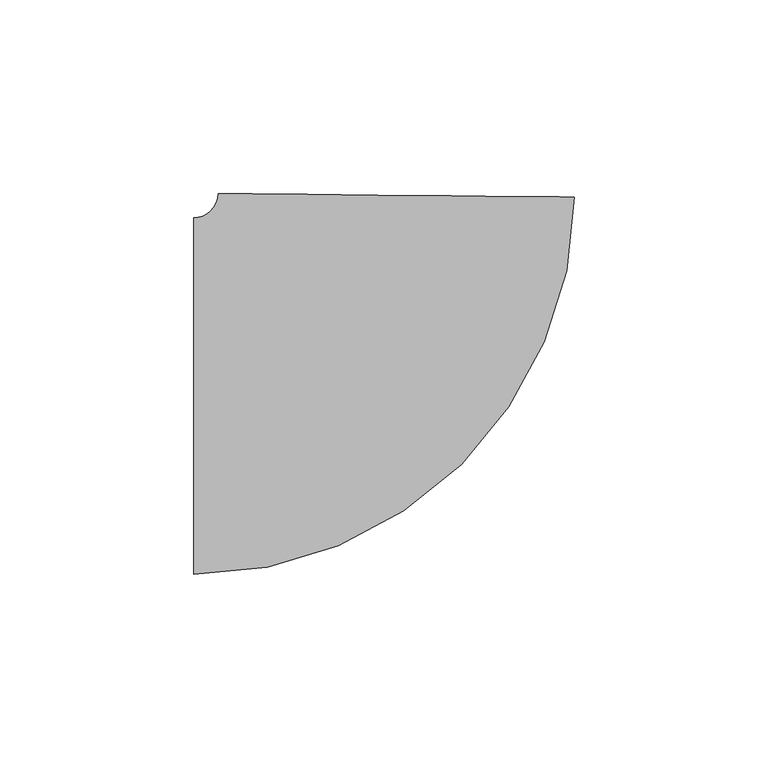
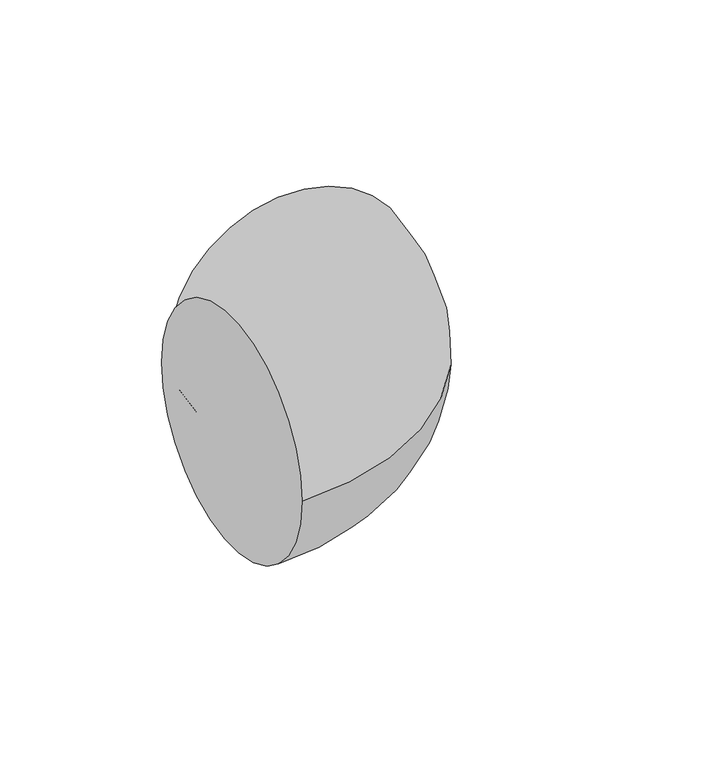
"""IFC4 building model written with IfcOpenShell, lengths in millimetres: pipe fitting geometry, M_Codo - Genérico : Estándar."""

from ifc_helpers import new_model, si_unit, point, frame, origin, place, context, project, spatial, circle_curve, ellipse_curve, trimmed, source, transform, mapped, element, save
from ifc_brep_helpers import plane_surface, revolved_surface, advanced_brep


def pipe_fitting_a8c499ec(model_context):
    return source(origin(), model_context, "Body", "AdvancedBrep", [
        advanced_brep(
        [(-51.8649291, -46.0375, 0.0), (-51.8649291, 46.0375, 0.0), (46.555125, 51.4008036, 0.0), (-45.5152482, 52.3238422, 0.0)],
        [
            (0, 1, circle_curve(frame((-51.8649291, 0.0, 0.0), z_axis=(-1.0, 0.0, 0.0), x_axis=(0.0, 1.0, 0.0)), 46.0375)),
            (1, 0, circle_curve(frame((-51.8649291, 0.0, 0.0), z_axis=(-1.0, 0.0, 0.0), x_axis=(0.0, 1.0, 0.0)), 46.0375)),
            (2, 3, circle_curve(frame((0.5199384, 51.8623229, 0.0), z_axis=(0.010024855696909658, 0.9999497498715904, 0.0), x_axis=(-0.9999497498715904, 0.010024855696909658, 0.0)), 46.0375)),
            (3, 2, circle_curve(frame((0.5199384, 51.8623229, 0.0), z_axis=(0.010024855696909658, 0.9999497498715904, 0.0), x_axis=(-0.9999497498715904, 0.010024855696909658, 0.0)), 46.0375)),
            (3, 1, circle_curve(frame((-51.8649291, 52.3875, 0.0), z_axis=(0.0, 0.0, -1.0), x_axis=(0.0, -1.0, 0.0)), 6.35)),
            (0, 2, circle_curve(frame((-51.8649291, 52.3875, 0.0), z_axis=(0.0, 0.0, 1.0), x_axis=(0.0, -1.0, 0.0)), 98.425)),
        ],
        [
            plane_surface(frame((-51.8649291, 0.0, 0.0), z_axis=(-1.0, 0.0, 0.0), x_axis=(0.0, 0.0, 1.0))),
            plane_surface(frame((0.5199384, 51.8623229, 0.0), z_axis=(0.01002485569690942, 0.9999497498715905, 0.0), x_axis=(0.0, 0.0, 1.0))),
            revolved_surface(trimmed(ellipse_curve(frame((-51.8649291, 0.0, 0.0), z_axis=(-1.0, 0.0, 0.0), x_axis=(0.0, 1.0, 0.0)), 46.0375, 46.0375), [point((-51.8649291, -46.0375, 0.0))], [point((-51.8649291, 46.0375, 0.0))], True, "CARTESIAN"), (-51.8649291, 52.3875, 0.0), (0.0, 0.0, 1.0)),
            revolved_surface(trimmed(ellipse_curve(frame((-51.8649291, 0.0, 0.0), z_axis=(-1.0, 0.0, 0.0), x_axis=(0.0, 1.0, 0.0)), 46.0375, 46.0375), [point((-51.8649291, 46.0375, 0.0))], [point((-51.8649291, -46.0375, 0.0))], True, "CARTESIAN"), (-51.8649291, 52.3875, 0.0), (0.0, 0.0, 1.0)),
        ],
        [
            (0, [[1, 2]]),
            (1, [[3, 4]]),
            (2, [[5, -1, 6, -4]]),
            (3, [[-6, -2, -5, -3]]),
        ],
    ),
    ])


if __name__ == "__main__":
    model = new_model("IFC4")
    model_context = context("Model", 3, world=origin())
    ifc_project = project(units=[si_unit("LENGTHUNIT", "METRE", prefix="MILLI")], contexts=[model_context])
    site = spatial("IfcSite", under=ifc_project)
    building = spatial("IfcBuilding", under=site)
    placement = place(None, origin())
    pipe_fitting_shape = pipe_fitting_a8c499ec(model_context)
    element("IfcPipeFitting", 1, ObjectType="M_Codo - Genérico : Estándar", at=placement, inside=building, context=model_context, shape_type="MappedRepresentation", body=[
        mapped(pipe_fitting_shape, transform((0.0, 0.0, 0.0), x_axis=(1.0, 0.0, 0.0), y_axis=(0.0, 1.0, 0.0), z_axis=(0.0, 0.0, 1.0))),
    ])
    save(model, "model.ifc")
